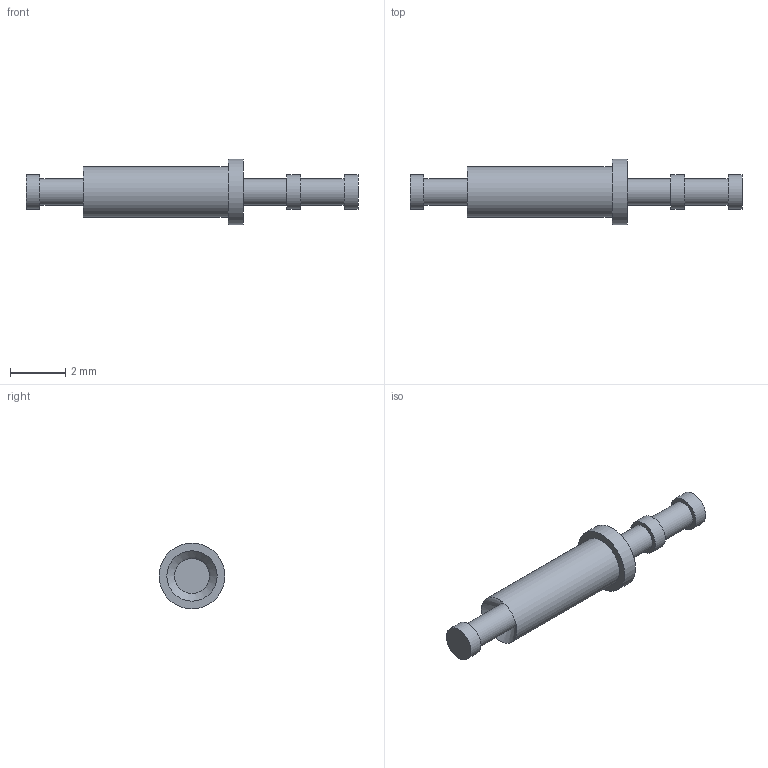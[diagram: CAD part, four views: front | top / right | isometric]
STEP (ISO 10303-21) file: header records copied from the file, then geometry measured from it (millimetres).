
FILE_DESCRIPTION(/* description */ (''),/* implementation_level */ '2;1');
FILE_NAME(/* name */ '\\Snap1\dwgs\Customer 3D Models\160\160-2044-05.stp',/* time_stamp */ '2017-02-02T08:40:27+00:00',/* author */ ('Paul Karlsons'),/* organization */ (''),/* preprocessor_version */ 'ST-DEVELOPER v15.2',/* originating_system */ 'Autodesk Inventor 2014',/* authorisation */ '');
FILE_SCHEMA (('CONFIG_CONTROL_DESIGN'));
Length unit declared in the file: millimetre
Products named in the file (1): 160-2044-05
Bounding box: 12.06 x 2.39 x 2.39 mm (x, y, z)
Volume: 21.3 mm3; surface area: 69 mm2
Topology: 1 solids, 1 shells, 17 faces, 25 edges, 16 vertices
Faces by surface type: cylinder 8, plane 8, cone 1
Full cylindrical faces by diameter (mm): 0.965 x3, 1.27 x3, 1.829 x1, 2.388 x1
Entity records: 355 total; most frequent: DIRECTION 68, CARTESIAN_POINT 50, AXIS2_PLACEMENT_3D 34, EDGE_LOOP 32, ORIENTED_EDGE 32, FACE_BOUND 18, ADVANCED_FACE 17, CIRCLE 16
